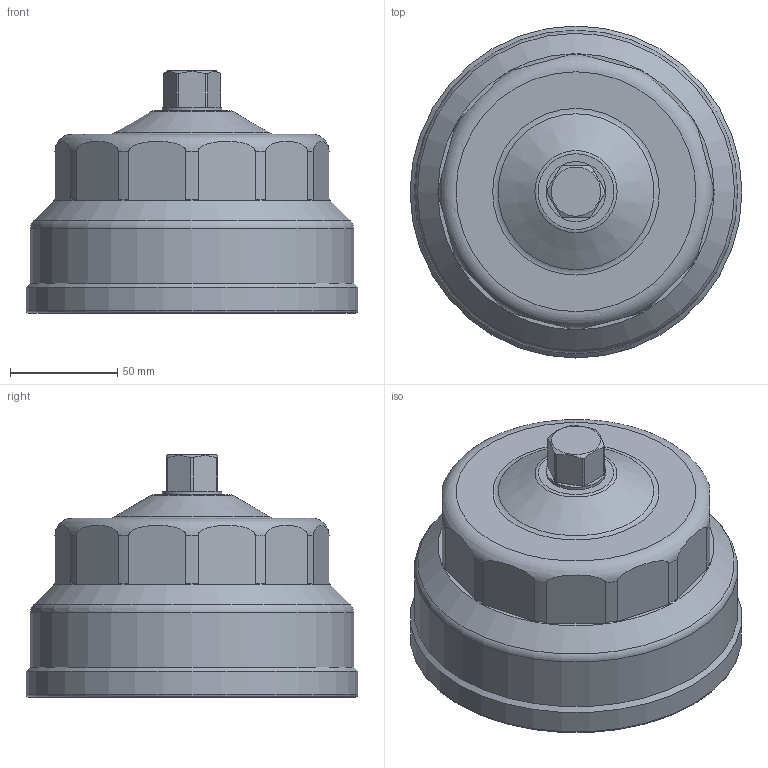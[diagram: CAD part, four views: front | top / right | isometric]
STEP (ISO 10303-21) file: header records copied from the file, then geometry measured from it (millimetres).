
FILE_DESCRIPTION(/* description */ ('Unknown','CAx-IF Rec.Pracs.---Representation and Presentation of Product Manufacturing Information (PMI)---4.0---2014-10-13','CAx-IF Rec.Pracs.---3D Tessellated Geometry---0.4---2014-09-14','2;1'),/* implementation_level */ '2;1');
FILE_NAME(/* name */ 'MCF-VA100',/* time_stamp */ '2023-09-20T12:17:20+02:00',/* author */ ('Unknown'),/* organization */ ('Unknown'),/* preprocessor_version */ 'ST-DEVELOPER v18.102',/* originating_system */ 'Solid Edge',/* authorisation */ 'Unknown');
FILE_SCHEMA (('AP242_MANAGED_MODEL_BASED_3D_ENGINEERING_MIM_LF { 1 0 10303 442 1 1 4 }'));
Length unit declared in the file: millimetre
Products named in the file (1): MCF-VA100_step_Vereinfachung
Bounding box: 154.84 x 154.84 x 112.89 mm (x, y, z)
Volume: 1172403.7 mm3; surface area: 83645.2 mm2
Topology: 1 solids, 1 shells, 89 faces, 220 edges, 145 vertices
Faces by surface type: plane 44, cylinder 30, cone 8, torus 7
Full cylindrical faces by diameter (mm): 10.989 x6, 27.972 x1, 59.94 x1, 65.934 x1, 79.92 x1, 150.849 x1, 154.845 x1
Entity records: 2654 total; most frequent: CARTESIAN_POINT 708, DIRECTION 404, ORIENTED_EDGE 362, EDGE_CURVE 181, AXIS2_PLACEMENT_3D 175, VERTEX_POINT 133, EDGE_LOOP 126, FACE_BOUND 126
